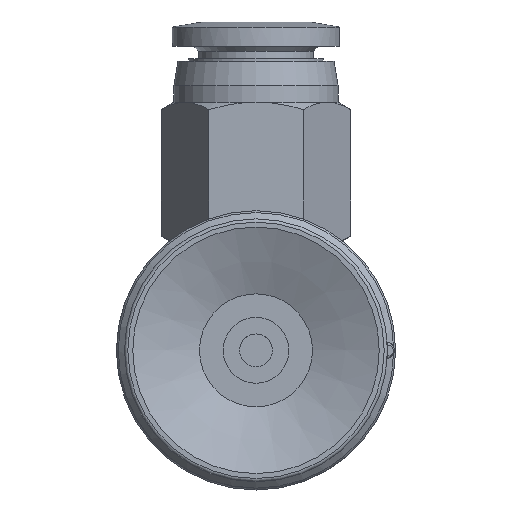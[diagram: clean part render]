
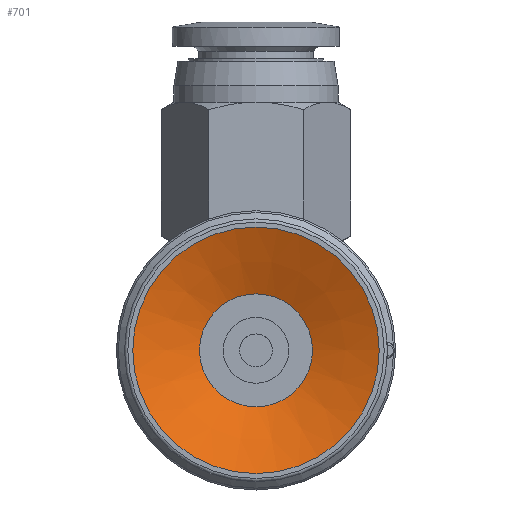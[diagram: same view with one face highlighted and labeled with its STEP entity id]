
A CAD part, front view. The second image highlights one B-rep face of the part: STEP entity #701.
In plain terms, the highlighted conical face has half-angle 67.5 degrees and reference radius 3.437 mm.
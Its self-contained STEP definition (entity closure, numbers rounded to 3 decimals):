
#701=ADVANCED_FACE('',(#1031,#1032),#1033,.F.);
#1031=FACE_BOUND('',#2469,.T.);
#1032=FACE_OUTER_BOUND('',#2470,.T.);
#1033=CONICAL_SURFACE('',#2471,3.437,1.178);
#2469=EDGE_LOOP('',(#3531));
#2470=EDGE_LOOP('',(#3532));
#2471=AXIS2_PLACEMENT_3D('',#3533,#3534,#3535);
#3531=ORIENTED_EDGE('',*,*,#4107,.F.);
#3532=ORIENTED_EDGE('',*,*,#4097,.T.);
#3533=CARTESIAN_POINT('',(0.0,0.0,1.683));
#3534=DIRECTION('',(0.0,0.,-1.0));
#3535=DIRECTION('',(0.0,1.0,0.));
#4097=EDGE_CURVE('',#4520,#4520,#4521,.T.);
#4107=EDGE_CURVE('',#4540,#4540,#4541,.T.);
#4520=VERTEX_POINT('',#5615);
#4521=CIRCLE('',#5616,7.5);
#4540=VERTEX_POINT('',#5635);
#4541=CIRCLE('',#5636,3.437);
#5615=CARTESIAN_POINT('',(-7.5,0.0,0.));
#5616=AXIS2_PLACEMENT_3D('',#6375,#6376,#6377);
#5635=CARTESIAN_POINT('',(-3.437,0.0,1.683));
#5636=AXIS2_PLACEMENT_3D('',#6405,#6406,#6407);
#6375=CARTESIAN_POINT('',(0.0,0.0,0.));
#6376=DIRECTION('',(0.0,0.,-1.0));
#6377=DIRECTION('',(0.0,1.0,0.));
#6405=CARTESIAN_POINT('',(0.0,0.0,1.683));
#6406=DIRECTION('',(0.0,0.,-1.0));
#6407=DIRECTION('',(0.0,1.0,0.));
